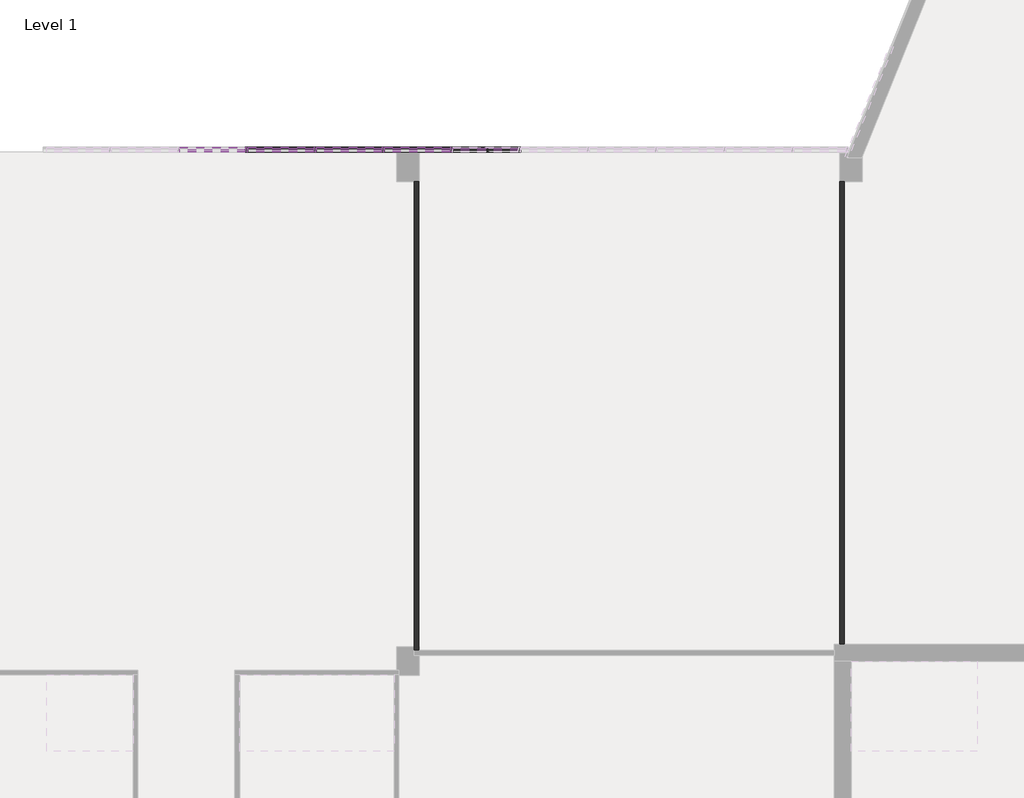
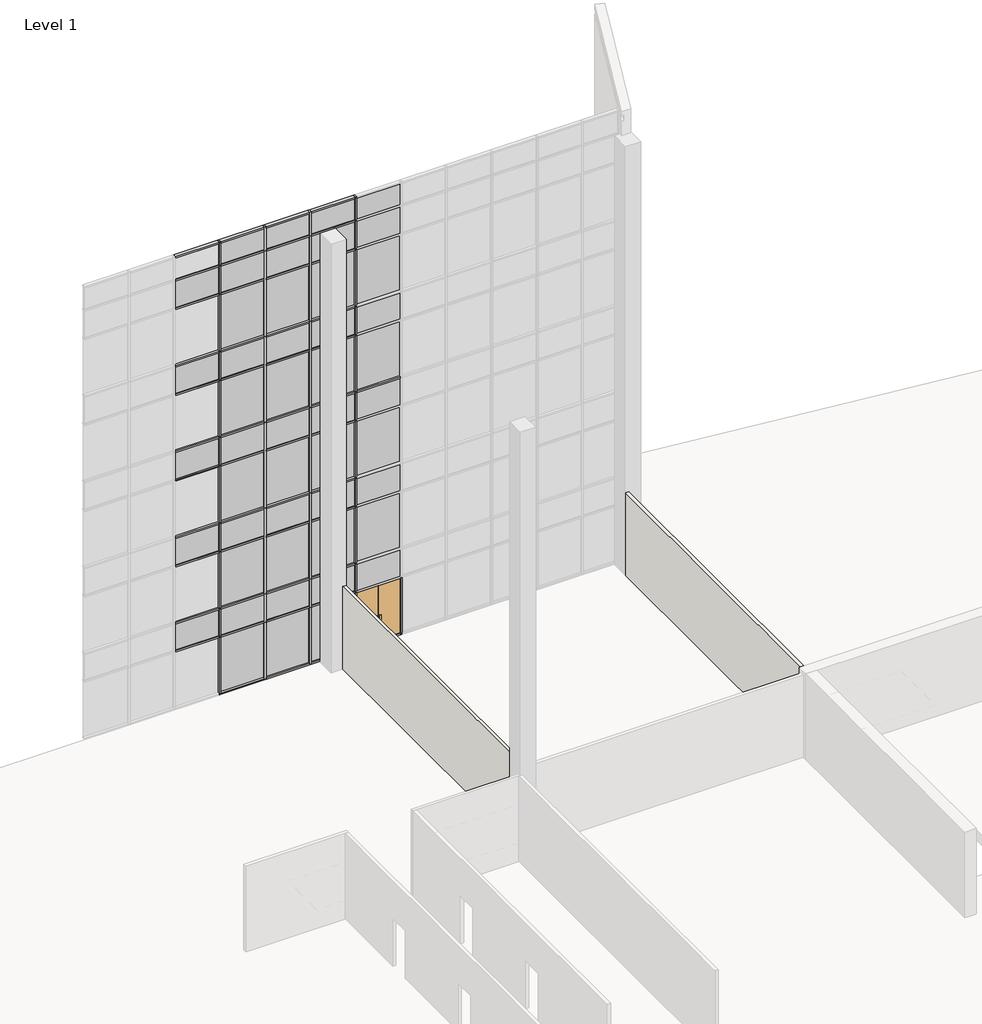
# One storey, part 13 of 23: 78 members, 48 plates, 2 walls, 1 door.
"""IFC4 building model written with IfcOpenShell, lengths in millimetres."""

from ifc_helpers import new_model, si_unit, origin, origin_with_axes, place, context, project, spatial, polyline, outline, extrude, transform, mapped, element, save
from components import curtain_wall_dbl_glass_curtain_wall_dbl_glass_821f5a63, member_2b49869a, member_f92b8aa2, member_810865a4, member_f0fea5a5, member_6d5c3e5e, member_9764dd38, system_panel_glazed_14c75400, system_panel_solid_5dfe6f83, system_panel_solid_e25e2004, system_panel_solid_b7551183

model = new_model("IFC4")

# Units and contexts
model_context = context("Model", 3, world=origin())
ifc_project = project(units=[si_unit("LENGTHUNIT", "METRE", prefix="MILLI")], contexts=[model_context])

# Site, building, storey
site = spatial("IfcSite", under=ifc_project)
building = spatial("IfcBuilding", under=site)
storey = spatial("IfcBuildingStorey", under=building, Name="Level 1", Elevation=0.0)

# Door
placement = place(None, origin())
curtain_wall_dbl_glass_curtain_wall_dbl_glass_shape = curtain_wall_dbl_glass_curtain_wall_dbl_glass_821f5a63(model_context)
element("IfcDoor", 1, ObjectType="Curtain Wall Dbl Glass : Curtain Wall Dbl Glass", at=placement, inside=storey, context=model_context, shape_type="MappedRepresentation", body=[
    mapped(curtain_wall_dbl_glass_curtain_wall_dbl_glass_shape, transform((-42545.8623649, 10017.7896508, 63.5), x_axis=(1.0, 0.0, 0.0), y_axis=(0.0, 1.0, 0.0), z_axis=(0.0, 0.0, 1.0))),
])

# Members
member_shape = member_2b49869a(model_context)
element("IfcMember", 2, ObjectType="Rectangular Mullion : 2.5\" x 5\" rectangular", at=placement, inside=storey, context=model_context, shape_type="MappedRepresentation", body=[
    mapped(member_shape, transform((-45289.0623649, 10017.7896508, 2438.4), x_axis=(1.0, 0.0, 0.0), y_axis=(0.0, -1.0, 0.0), z_axis=(0.0, 0.0, -1.0))),
])
element("IfcMember", 3, ObjectType="Rectangular Mullion : 2.5\" x 5\" rectangular", at=placement, inside=storey, context=model_context, shape_type="MappedRepresentation", body=[
    mapped(member_shape, transform((-47117.8623649, 10017.7896508, 2438.4), x_axis=(1.0, 0.0, 0.0), y_axis=(0.0, -1.0, 0.0), z_axis=(0.0, 0.0, -1.0))),
])
element("IfcMember", 4, ObjectType="Rectangular Mullion : 2.5\" x 5\" rectangular", at=placement, inside=storey, context=model_context, shape_type="MappedRepresentation", body=[
    mapped(member_shape, transform((-48946.6623649, 10017.7896508, 2438.4), x_axis=(1.0, 0.0, 0.0), y_axis=(0.0, -1.0, 0.0), z_axis=(0.0, 0.0, -1.0))),
])
member_2_shape = member_f92b8aa2(model_context)
element("IfcMember", 5, ObjectType="Rectangular Mullion : 2.5\" x 5\" rectangular", at=placement, inside=storey, context=model_context, shape_type="MappedRepresentation", body=[
    mapped(member_2_shape, transform((-45289.0623649, 10017.7896508, 18288.0), x_axis=(1.0, 0.0, 0.0), y_axis=(0.0, -1.0, 0.0), z_axis=(0.0, 0.0, -1.0))),
])
element("IfcMember", 6, ObjectType="Rectangular Mullion : 2.5\" x 5\" rectangular", at=placement, inside=storey, context=model_context, shape_type="MappedRepresentation", body=[
    mapped(member_2_shape, transform((-47117.8623649, 10017.7896508, 18288.0), x_axis=(1.0, 0.0, 0.0), y_axis=(0.0, -1.0, 0.0), z_axis=(0.0, 0.0, -1.0))),
])
element("IfcMember", 7, ObjectType="Rectangular Mullion : 2.5\" x 5\" rectangular", at=placement, inside=storey, context=model_context, shape_type="MappedRepresentation", body=[
    mapped(member_2_shape, transform((-48946.6623649, 10017.7896508, 18288.0), x_axis=(1.0, 0.0, 0.0), y_axis=(0.0, -1.0, 0.0), z_axis=(0.0, 0.0, -1.0))),
])
element("IfcMember", 8, ObjectType="Rectangular Mullion : 2.5\" x 5\" rectangular", at=placement, inside=storey, context=model_context, shape_type="MappedRepresentation", body=[
    mapped(member_2_shape, transform((-43460.2623649, 10017.7896508, 18288.0), x_axis=(1.0, 0.0, 0.0), y_axis=(0.0, -1.0, 0.0), z_axis=(0.0, 0.0, -1.0))),
])
member_3_shape = member_810865a4(model_context)
element("IfcMember", 9, ObjectType="Rectangular Mullion : 2.5\" x 5\" rectangular", at=placement, inside=storey, context=model_context, shape_type="MappedRepresentation", body=[
    mapped(member_3_shape, transform((-43460.2623649, 10017.7896508, 10972.8), x_axis=(1.0, 0.0, 0.0), y_axis=(0.0, -1.0, 0.0), z_axis=(0.0, 0.0, -1.0))),
])
element("IfcMember", 10, ObjectType="Rectangular Mullion : 2.5\" x 5\" rectangular", at=placement, inside=storey, context=model_context, shape_type="MappedRepresentation", body=[
    mapped(member_3_shape, transform((-43460.2623649, 10017.7896508, 7315.2), x_axis=(1.0, 0.0, 0.0), y_axis=(0.0, -1.0, 0.0), z_axis=(0.0, 0.0, -1.0))),
])
element("IfcMember", 11, ObjectType="Rectangular Mullion : 2.5\" x 5\" rectangular", at=placement, inside=storey, context=model_context, shape_type="MappedRepresentation", body=[
    mapped(member_3_shape, transform((-43460.2623649, 10017.7896508, 3657.6), x_axis=(1.0, 0.0, 0.0), y_axis=(0.0, -1.0, 0.0), z_axis=(0.0, 0.0, -1.0))),
])
element("IfcMember", 12, ObjectType="Rectangular Mullion : 2.5\" x 5\" rectangular", at=placement, inside=storey, context=model_context, shape_type="MappedRepresentation", body=[
    mapped(member_3_shape, transform((-45289.0623649, 10017.7896508, 14630.4), x_axis=(1.0, 0.0, 0.0), y_axis=(0.0, -1.0, 0.0), z_axis=(0.0, 0.0, -1.0))),
])
element("IfcMember", 13, ObjectType="Rectangular Mullion : 2.5\" x 5\" rectangular", at=placement, inside=storey, context=model_context, shape_type="MappedRepresentation", body=[
    mapped(member_3_shape, transform((-45289.0623649, 10017.7896508, 10972.8), x_axis=(1.0, 0.0, 0.0), y_axis=(0.0, -1.0, 0.0), z_axis=(0.0, 0.0, -1.0))),
])
element("IfcMember", 14, ObjectType="Rectangular Mullion : 2.5\" x 5\" rectangular", at=placement, inside=storey, context=model_context, shape_type="MappedRepresentation", body=[
    mapped(member_3_shape, transform((-45289.0623649, 10017.7896508, 7315.2), x_axis=(1.0, 0.0, 0.0), y_axis=(0.0, -1.0, 0.0), z_axis=(0.0, 0.0, -1.0))),
])
element("IfcMember", 15, ObjectType="Rectangular Mullion : 2.5\" x 5\" rectangular", at=placement, inside=storey, context=model_context, shape_type="MappedRepresentation", body=[
    mapped(member_3_shape, transform((-45289.0623649, 10017.7896508, 3657.6), x_axis=(1.0, 0.0, 0.0), y_axis=(0.0, -1.0, 0.0), z_axis=(0.0, 0.0, -1.0))),
])
element("IfcMember", 16, ObjectType="Rectangular Mullion : 2.5\" x 5\" rectangular", at=placement, inside=storey, context=model_context, shape_type="MappedRepresentation", body=[
    mapped(member_3_shape, transform((-47117.8623649, 10017.7896508, 14630.4), x_axis=(1.0, 0.0, 0.0), y_axis=(0.0, -1.0, 0.0), z_axis=(0.0, 0.0, -1.0))),
])
element("IfcMember", 17, ObjectType="Rectangular Mullion : 2.5\" x 5\" rectangular", at=placement, inside=storey, context=model_context, shape_type="MappedRepresentation", body=[
    mapped(member_3_shape, transform((-47117.8623649, 10017.7896508, 10972.8), x_axis=(1.0, 0.0, 0.0), y_axis=(0.0, -1.0, 0.0), z_axis=(0.0, 0.0, -1.0))),
])
element("IfcMember", 18, ObjectType="Rectangular Mullion : 2.5\" x 5\" rectangular", at=placement, inside=storey, context=model_context, shape_type="MappedRepresentation", body=[
    mapped(member_3_shape, transform((-47117.8623649, 10017.7896508, 7315.2), x_axis=(1.0, 0.0, 0.0), y_axis=(0.0, -1.0, 0.0), z_axis=(0.0, 0.0, -1.0))),
])
element("IfcMember", 19, ObjectType="Rectangular Mullion : 2.5\" x 5\" rectangular", at=placement, inside=storey, context=model_context, shape_type="MappedRepresentation", body=[
    mapped(member_3_shape, transform((-47117.8623649, 10017.7896508, 3657.6), x_axis=(1.0, 0.0, 0.0), y_axis=(0.0, -1.0, 0.0), z_axis=(0.0, 0.0, -1.0))),
])
element("IfcMember", 20, ObjectType="Rectangular Mullion : 2.5\" x 5\" rectangular", at=placement, inside=storey, context=model_context, shape_type="MappedRepresentation", body=[
    mapped(member_3_shape, transform((-48946.6623649, 10017.7896508, 14630.4), x_axis=(1.0, 0.0, 0.0), y_axis=(0.0, -1.0, 0.0), z_axis=(0.0, 0.0, -1.0))),
])
element("IfcMember", 21, ObjectType="Rectangular Mullion : 2.5\" x 5\" rectangular", at=placement, inside=storey, context=model_context, shape_type="MappedRepresentation", body=[
    mapped(member_3_shape, transform((-48946.6623649, 10017.7896508, 10972.8), x_axis=(1.0, 0.0, 0.0), y_axis=(0.0, -1.0, 0.0), z_axis=(0.0, 0.0, -1.0))),
])
element("IfcMember", 22, ObjectType="Rectangular Mullion : 2.5\" x 5\" rectangular", at=placement, inside=storey, context=model_context, shape_type="MappedRepresentation", body=[
    mapped(member_3_shape, transform((-48946.6623649, 10017.7896508, 7315.2), x_axis=(1.0, 0.0, 0.0), y_axis=(0.0, -1.0, 0.0), z_axis=(0.0, 0.0, -1.0))),
])
element("IfcMember", 23, ObjectType="Rectangular Mullion : 2.5\" x 5\" rectangular", at=placement, inside=storey, context=model_context, shape_type="MappedRepresentation", body=[
    mapped(member_3_shape, transform((-48946.6623649, 10017.7896508, 3657.6), x_axis=(1.0, 0.0, 0.0), y_axis=(0.0, -1.0, 0.0), z_axis=(0.0, 0.0, -1.0))),
])
element("IfcMember", 24, ObjectType="Rectangular Mullion : 2.5\" x 5\" rectangular", at=placement, inside=storey, context=model_context, shape_type="MappedRepresentation", body=[
    mapped(member_3_shape, transform((-43460.2623649, 10017.7896508, 14630.4), x_axis=(1.0, 0.0, 0.0), y_axis=(0.0, -1.0, 0.0), z_axis=(0.0, 0.0, -1.0))),
])
member_4_shape = member_f0fea5a5(model_context)
element("IfcMember", 25, ObjectType="Rectangular Mullion : 2.5\" x 5\" rectangular", at=placement, inside=storey, context=model_context, shape_type="MappedRepresentation", body=[
    mapped(member_4_shape, transform((-45289.0623649, 10017.7896508, 0.0), x_axis=(1.0, 0.0, 0.0), y_axis=(0.0, -1.0, 0.0), z_axis=(0.0, 0.0, -1.0))),
])
element("IfcMember", 26, ObjectType="Rectangular Mullion : 2.5\" x 5\" rectangular", at=placement, inside=storey, context=model_context, shape_type="MappedRepresentation", body=[
    mapped(member_4_shape, transform((-47117.8623649, 10017.7896508, 0.0), x_axis=(1.0, 0.0, 0.0), y_axis=(0.0, -1.0, 0.0), z_axis=(0.0, 0.0, -1.0))),
])
element("IfcMember", 27, ObjectType="Rectangular Mullion : 2.5\" x 5\" rectangular", at=placement, inside=storey, context=model_context, shape_type="MappedRepresentation", body=[
    mapped(member_4_shape, transform((-48946.6623649, 10017.7896508, 0.0), x_axis=(1.0, 0.0, 0.0), y_axis=(0.0, -1.0, 0.0), z_axis=(0.0, 0.0, -1.0))),
])
element("IfcMember", 28, ObjectType="Rectangular Mullion : 2.5\" x 5\" rectangular", at=placement, inside=storey, context=model_context, shape_type="MappedRepresentation", body=[
    mapped(member_4_shape, transform((-41631.4623649, 10017.7896508, 0.0), x_axis=(1.0, 0.0, 0.0), y_axis=(0.0, -1.0, 0.0), z_axis=(0.0, 0.0, -1.0))),
])
element("IfcMember", 29, ObjectType="Rectangular Mullion : 2.5\" x 5\" rectangular", at=placement, inside=storey, context=model_context, shape_type="MappedRepresentation", body=[
    mapped(member_4_shape, transform((-43460.2623649, 10017.7896508, 0.0), x_axis=(1.0, 0.0, 0.0), y_axis=(0.0, -1.0, 0.0), z_axis=(0.0, 0.0, -1.0))),
])
element("IfcMember", 30, ObjectType="Rectangular Mullion : 2.5\" x 5\" rectangular", at=placement, inside=storey, context=model_context, shape_type="MappedRepresentation", body=[
    mapped(member_shape, transform((-43460.2623649, 10017.7896508, 2438.4), x_axis=(1.0, 0.0, 0.0), y_axis=(0.0, -1.0, 0.0), z_axis=(0.0, 0.0, -1.0))),
])
member_5_shape = member_6d5c3e5e(model_context)
element("IfcMember", 31, ObjectType="Rectangular Mullion : 2.5\" x 5\" rectangular", at=placement, inside=storey, context=model_context, shape_type="MappedRepresentation", body=[
    mapped(member_5_shape, transform((-43492.0123649, 10017.7896508, 19304.0), x_axis=(0.0, 0.0, 1.0), y_axis=(0.0, -1.0, 0.0), z_axis=(1.0, 0.0, 0.0))),
])
element("IfcMember", 32, ObjectType="Rectangular Mullion : 2.5\" x 5\" rectangular", at=placement, inside=storey, context=model_context, shape_type="MappedRepresentation", body=[
    mapped(member_5_shape, transform((-45320.8123649, 10017.7896508, 19304.0), x_axis=(0.0, 0.0, 1.0), y_axis=(0.0, -1.0, 0.0), z_axis=(1.0, 0.0, 0.0))),
])
element("IfcMember", 33, ObjectType="Rectangular Mullion : 2.5\" x 5\" rectangular", at=placement, inside=storey, context=model_context, shape_type="MappedRepresentation", body=[
    mapped(member_5_shape, transform((-47149.6123649, 10017.7896508, 19304.0), x_axis=(0.0, 0.0, 1.0), y_axis=(0.0, -1.0, 0.0), z_axis=(1.0, 0.0, 0.0))),
])
element("IfcMember", 34, ObjectType="Rectangular Mullion : 2.5\" x 5\" rectangular", at=placement, inside=storey, context=model_context, shape_type="MappedRepresentation", body=[
    mapped(member_5_shape, transform((-48978.4123649, 10017.7896508, 19304.0), x_axis=(0.0, 0.0, 1.0), y_axis=(0.0, -1.0, 0.0), z_axis=(1.0, 0.0, 0.0))),
])
member_6_shape = member_9764dd38(model_context)
element("IfcMember", 35, ObjectType="Rectangular Mullion : 2.5\" x 5\" rectangular", at=placement, inside=storey, context=model_context, shape_type="MappedRepresentation", body=[
    mapped(member_6_shape, transform((-43492.0123649, 10017.7896508, 17068.8), x_axis=(0.0, 0.0, 1.0), y_axis=(0.0, -1.0, 0.0), z_axis=(1.0, 0.0, 0.0))),
])
element("IfcMember", 36, ObjectType="Rectangular Mullion : 2.5\" x 5\" rectangular", at=placement, inside=storey, context=model_context, shape_type="MappedRepresentation", body=[
    mapped(member_6_shape, transform((-45320.8123649, 10017.7896508, 17068.8), x_axis=(0.0, 0.0, 1.0), y_axis=(0.0, -1.0, 0.0), z_axis=(1.0, 0.0, 0.0))),
])
element("IfcMember", 37, ObjectType="Rectangular Mullion : 2.5\" x 5\" rectangular", at=placement, inside=storey, context=model_context, shape_type="MappedRepresentation", body=[
    mapped(member_6_shape, transform((-47149.6123649, 10017.7896508, 17068.8), x_axis=(0.0, 0.0, 1.0), y_axis=(0.0, -1.0, 0.0), z_axis=(1.0, 0.0, 0.0))),
])
element("IfcMember", 38, ObjectType="Rectangular Mullion : 2.5\" x 5\" rectangular", at=placement, inside=storey, context=model_context, shape_type="MappedRepresentation", body=[
    mapped(member_6_shape, transform((-48978.4123649, 10017.7896508, 17068.8), x_axis=(0.0, 0.0, 1.0), y_axis=(0.0, -1.0, 0.0), z_axis=(1.0, 0.0, 0.0))),
])
element("IfcMember", 39, ObjectType="Rectangular Mullion : 2.5\" x 5\" rectangular", at=placement, inside=storey, context=model_context, shape_type="MappedRepresentation", body=[
    mapped(member_6_shape, transform((-43492.0123649, 10017.7896508, 13411.2), x_axis=(0.0, 0.0, 1.0), y_axis=(0.0, -1.0, 0.0), z_axis=(1.0, 0.0, 0.0))),
])
element("IfcMember", 40, ObjectType="Rectangular Mullion : 2.5\" x 5\" rectangular", at=placement, inside=storey, context=model_context, shape_type="MappedRepresentation", body=[
    mapped(member_6_shape, transform((-45320.8123649, 10017.7896508, 13411.2), x_axis=(0.0, 0.0, 1.0), y_axis=(0.0, -1.0, 0.0), z_axis=(1.0, 0.0, 0.0))),
])
element("IfcMember", 41, ObjectType="Rectangular Mullion : 2.5\" x 5\" rectangular", at=placement, inside=storey, context=model_context, shape_type="MappedRepresentation", body=[
    mapped(member_6_shape, transform((-47149.6123649, 10017.7896508, 13411.2), x_axis=(0.0, 0.0, 1.0), y_axis=(0.0, -1.0, 0.0), z_axis=(1.0, 0.0, 0.0))),
])
element("IfcMember", 42, ObjectType="Rectangular Mullion : 2.5\" x 5\" rectangular", at=placement, inside=storey, context=model_context, shape_type="MappedRepresentation", body=[
    mapped(member_6_shape, transform((-48978.4123649, 10017.7896508, 13411.2), x_axis=(0.0, 0.0, 1.0), y_axis=(0.0, -1.0, 0.0), z_axis=(1.0, 0.0, 0.0))),
])
element("IfcMember", 43, ObjectType="Rectangular Mullion : 2.5\" x 5\" rectangular", at=placement, inside=storey, context=model_context, shape_type="MappedRepresentation", body=[
    mapped(member_6_shape, transform((-43492.0123649, 10017.7896508, 9753.6), x_axis=(0.0, 0.0, 1.0), y_axis=(0.0, -1.0, 0.0), z_axis=(1.0, 0.0, 0.0))),
])
element("IfcMember", 44, ObjectType="Rectangular Mullion : 2.5\" x 5\" rectangular", at=placement, inside=storey, context=model_context, shape_type="MappedRepresentation", body=[
    mapped(member_6_shape, transform((-45320.8123649, 10017.7896508, 9753.6), x_axis=(0.0, 0.0, 1.0), y_axis=(0.0, -1.0, 0.0), z_axis=(1.0, 0.0, 0.0))),
])
element("IfcMember", 45, ObjectType="Rectangular Mullion : 2.5\" x 5\" rectangular", at=placement, inside=storey, context=model_context, shape_type="MappedRepresentation", body=[
    mapped(member_6_shape, transform((-47149.6123649, 10017.7896508, 9753.6), x_axis=(0.0, 0.0, 1.0), y_axis=(0.0, -1.0, 0.0), z_axis=(1.0, 0.0, 0.0))),
])
element("IfcMember", 46, ObjectType="Rectangular Mullion : 2.5\" x 5\" rectangular", at=placement, inside=storey, context=model_context, shape_type="MappedRepresentation", body=[
    mapped(member_6_shape, transform((-48978.4123649, 10017.7896508, 9753.6), x_axis=(0.0, 0.0, 1.0), y_axis=(0.0, -1.0, 0.0), z_axis=(1.0, 0.0, 0.0))),
])
element("IfcMember", 47, ObjectType="Rectangular Mullion : 2.5\" x 5\" rectangular", at=placement, inside=storey, context=model_context, shape_type="MappedRepresentation", body=[
    mapped(member_6_shape, transform((-43492.0123649, 10017.7896508, 6096.0), x_axis=(0.0, 0.0, 1.0), y_axis=(0.0, -1.0, 0.0), z_axis=(1.0, 0.0, 0.0))),
])
element("IfcMember", 48, ObjectType="Rectangular Mullion : 2.5\" x 5\" rectangular", at=placement, inside=storey, context=model_context, shape_type="MappedRepresentation", body=[
    mapped(member_6_shape, transform((-45320.8123649, 10017.7896508, 6096.0), x_axis=(0.0, 0.0, 1.0), y_axis=(0.0, -1.0, 0.0), z_axis=(1.0, 0.0, 0.0))),
])
element("IfcMember", 49, ObjectType="Rectangular Mullion : 2.5\" x 5\" rectangular", at=placement, inside=storey, context=model_context, shape_type="MappedRepresentation", body=[
    mapped(member_6_shape, transform((-47149.6123649, 10017.7896508, 6096.0), x_axis=(0.0, 0.0, 1.0), y_axis=(0.0, -1.0, 0.0), z_axis=(1.0, 0.0, 0.0))),
])
element("IfcMember", 50, ObjectType="Rectangular Mullion : 2.5\" x 5\" rectangular", at=placement, inside=storey, context=model_context, shape_type="MappedRepresentation", body=[
    mapped(member_6_shape, transform((-48978.4123649, 10017.7896508, 6096.0), x_axis=(0.0, 0.0, 1.0), y_axis=(0.0, -1.0, 0.0), z_axis=(1.0, 0.0, 0.0))),
])
element("IfcMember", 51, ObjectType="Rectangular Mullion : 2.5\" x 5\" rectangular", at=placement, inside=storey, context=model_context, shape_type="MappedRepresentation", body=[
    mapped(member_6_shape, transform((-43492.0123649, 10017.7896508, 2470.15), x_axis=(0.0, 0.0, 1.0), y_axis=(0.0, -1.0, 0.0), z_axis=(1.0, 0.0, 0.0))),
])
element("IfcMember", 52, ObjectType="Rectangular Mullion : 2.5\" x 5\" rectangular", at=placement, inside=storey, context=model_context, shape_type="MappedRepresentation", body=[
    mapped(member_6_shape, transform((-45320.8123649, 10017.7896508, 2470.15), x_axis=(0.0, 0.0, 1.0), y_axis=(0.0, -1.0, 0.0), z_axis=(1.0, 0.0, 0.0))),
])
element("IfcMember", 53, ObjectType="Rectangular Mullion : 2.5\" x 5\" rectangular", at=placement, inside=storey, context=model_context, shape_type="MappedRepresentation", body=[
    mapped(member_6_shape, transform((-47149.6123649, 10017.7896508, 2470.15), x_axis=(0.0, 0.0, 1.0), y_axis=(0.0, -1.0, 0.0), z_axis=(1.0, 0.0, 0.0))),
])
element("IfcMember", 54, ObjectType="Rectangular Mullion : 2.5\" x 5\" rectangular", at=placement, inside=storey, context=model_context, shape_type="MappedRepresentation", body=[
    mapped(member_6_shape, transform((-48978.4123649, 10017.7896508, 2470.15), x_axis=(0.0, 0.0, 1.0), y_axis=(0.0, -1.0, 0.0), z_axis=(1.0, 0.0, 0.0))),
])
element("IfcMember", 55, ObjectType="Rectangular Mullion : 2.5\" x 5\" rectangular", at=placement, inside=storey, context=model_context, shape_type="MappedRepresentation", body=[
    mapped(member_5_shape, transform((-45257.3123649, 10017.7896508, 0.0), x_axis=(0.0, 0.0, -1.0), y_axis=(0.0, -1.0, 0.0), z_axis=(-1.0, 0.0, 0.0))),
])
element("IfcMember", 56, ObjectType="Rectangular Mullion : 2.5\" x 5\" rectangular", at=placement, inside=storey, context=model_context, shape_type="MappedRepresentation", body=[
    mapped(member_5_shape, transform((-47086.1123649, 10017.7896508, 0.0), x_axis=(0.0, 0.0, -1.0), y_axis=(0.0, -1.0, 0.0), z_axis=(-1.0, 0.0, 0.0))),
])
element("IfcMember", 57, ObjectType="Rectangular Mullion : 2.5\" x 5\" rectangular", at=placement, inside=storey, context=model_context, shape_type="MappedRepresentation", body=[
    mapped(member_5_shape, transform((-48914.9123649, 10017.7896508, 0.0), x_axis=(0.0, 0.0, -1.0), y_axis=(0.0, -1.0, 0.0), z_axis=(-1.0, 0.0, 0.0))),
])
element("IfcMember", 58, ObjectType="Rectangular Mullion : 2.5\" x 5\" rectangular", at=placement, inside=storey, context=model_context, shape_type="MappedRepresentation", body=[
    mapped(member_5_shape, transform((-43428.5123649, 10017.7896508, 0.0), x_axis=(0.0, 0.0, -1.0), y_axis=(0.0, -1.0, 0.0), z_axis=(-1.0, 0.0, 0.0))),
])
element("IfcMember", 59, ObjectType="Rectangular Mullion : 2.5\" x 5\" rectangular", at=placement, inside=storey, context=model_context, shape_type="MappedRepresentation", body=[
    mapped(member_6_shape, transform((-41663.2123649, 10017.7896508, 10972.8), x_axis=(0.0, 0.0, 1.0), y_axis=(0.0, -1.0, 0.0), z_axis=(1.0, 0.0, 0.0))),
])
element("IfcMember", 60, ObjectType="Rectangular Mullion : 2.5\" x 5\" rectangular", at=placement, inside=storey, context=model_context, shape_type="MappedRepresentation", body=[
    mapped(member_6_shape, transform((-43492.0123649, 10017.7896508, 10972.8), x_axis=(0.0, 0.0, 1.0), y_axis=(0.0, -1.0, 0.0), z_axis=(1.0, 0.0, 0.0))),
])
element("IfcMember", 61, ObjectType="Rectangular Mullion : 2.5\" x 5\" rectangular", at=placement, inside=storey, context=model_context, shape_type="MappedRepresentation", body=[
    mapped(member_6_shape, transform((-45320.8123649, 10017.7896508, 10972.8), x_axis=(0.0, 0.0, 1.0), y_axis=(0.0, -1.0, 0.0), z_axis=(1.0, 0.0, 0.0))),
])
element("IfcMember", 62, ObjectType="Rectangular Mullion : 2.5\" x 5\" rectangular", at=placement, inside=storey, context=model_context, shape_type="MappedRepresentation", body=[
    mapped(member_6_shape, transform((-47149.6123649, 10017.7896508, 10972.8), x_axis=(0.0, 0.0, 1.0), y_axis=(0.0, -1.0, 0.0), z_axis=(1.0, 0.0, 0.0))),
])
element("IfcMember", 63, ObjectType="Rectangular Mullion : 2.5\" x 5\" rectangular", at=placement, inside=storey, context=model_context, shape_type="MappedRepresentation", body=[
    mapped(member_6_shape, transform((-48978.4123649, 10017.7896508, 10972.8), x_axis=(0.0, 0.0, 1.0), y_axis=(0.0, -1.0, 0.0), z_axis=(1.0, 0.0, 0.0))),
])
element("IfcMember", 64, ObjectType="Rectangular Mullion : 2.5\" x 5\" rectangular", at=placement, inside=storey, context=model_context, shape_type="MappedRepresentation", body=[
    mapped(member_6_shape, transform((-43492.0123649, 10017.7896508, 7315.2), x_axis=(0.0, 0.0, 1.0), y_axis=(0.0, -1.0, 0.0), z_axis=(1.0, 0.0, 0.0))),
])
element("IfcMember", 65, ObjectType="Rectangular Mullion : 2.5\" x 5\" rectangular", at=placement, inside=storey, context=model_context, shape_type="MappedRepresentation", body=[
    mapped(member_6_shape, transform((-45320.8123649, 10017.7896508, 7315.2), x_axis=(0.0, 0.0, 1.0), y_axis=(0.0, -1.0, 0.0), z_axis=(1.0, 0.0, 0.0))),
])
element("IfcMember", 66, ObjectType="Rectangular Mullion : 2.5\" x 5\" rectangular", at=placement, inside=storey, context=model_context, shape_type="MappedRepresentation", body=[
    mapped(member_6_shape, transform((-47149.6123649, 10017.7896508, 7315.2), x_axis=(0.0, 0.0, 1.0), y_axis=(0.0, -1.0, 0.0), z_axis=(1.0, 0.0, 0.0))),
])
element("IfcMember", 67, ObjectType="Rectangular Mullion : 2.5\" x 5\" rectangular", at=placement, inside=storey, context=model_context, shape_type="MappedRepresentation", body=[
    mapped(member_6_shape, transform((-48978.4123649, 10017.7896508, 7315.2), x_axis=(0.0, 0.0, 1.0), y_axis=(0.0, -1.0, 0.0), z_axis=(1.0, 0.0, 0.0))),
])
element("IfcMember", 68, ObjectType="Rectangular Mullion : 2.5\" x 5\" rectangular", at=placement, inside=storey, context=model_context, shape_type="MappedRepresentation", body=[
    mapped(member_6_shape, transform((-43492.0123649, 10017.7896508, 18288.0), x_axis=(0.0, 0.0, 1.0), y_axis=(0.0, -1.0, 0.0), z_axis=(1.0, 0.0, 0.0))),
])
element("IfcMember", 69, ObjectType="Rectangular Mullion : 2.5\" x 5\" rectangular", at=placement, inside=storey, context=model_context, shape_type="MappedRepresentation", body=[
    mapped(member_6_shape, transform((-45320.8123649, 10017.7896508, 18288.0), x_axis=(0.0, 0.0, 1.0), y_axis=(0.0, -1.0, 0.0), z_axis=(1.0, 0.0, 0.0))),
])
element("IfcMember", 70, ObjectType="Rectangular Mullion : 2.5\" x 5\" rectangular", at=placement, inside=storey, context=model_context, shape_type="MappedRepresentation", body=[
    mapped(member_6_shape, transform((-47149.6123649, 10017.7896508, 18288.0), x_axis=(0.0, 0.0, 1.0), y_axis=(0.0, -1.0, 0.0), z_axis=(1.0, 0.0, 0.0))),
])
element("IfcMember", 71, ObjectType="Rectangular Mullion : 2.5\" x 5\" rectangular", at=placement, inside=storey, context=model_context, shape_type="MappedRepresentation", body=[
    mapped(member_6_shape, transform((-48978.4123649, 10017.7896508, 18288.0), x_axis=(0.0, 0.0, 1.0), y_axis=(0.0, -1.0, 0.0), z_axis=(1.0, 0.0, 0.0))),
])
element("IfcMember", 72, ObjectType="Rectangular Mullion : 2.5\" x 5\" rectangular", at=placement, inside=storey, context=model_context, shape_type="MappedRepresentation", body=[
    mapped(member_6_shape, transform((-43492.0123649, 10017.7896508, 14630.4), x_axis=(0.0, 0.0, 1.0), y_axis=(0.0, -1.0, 0.0), z_axis=(1.0, 0.0, 0.0))),
])
element("IfcMember", 73, ObjectType="Rectangular Mullion : 2.5\" x 5\" rectangular", at=placement, inside=storey, context=model_context, shape_type="MappedRepresentation", body=[
    mapped(member_6_shape, transform((-45320.8123649, 10017.7896508, 14630.4), x_axis=(0.0, 0.0, 1.0), y_axis=(0.0, -1.0, 0.0), z_axis=(1.0, 0.0, 0.0))),
])
element("IfcMember", 74, ObjectType="Rectangular Mullion : 2.5\" x 5\" rectangular", at=placement, inside=storey, context=model_context, shape_type="MappedRepresentation", body=[
    mapped(member_6_shape, transform((-47149.6123649, 10017.7896508, 14630.4), x_axis=(0.0, 0.0, 1.0), y_axis=(0.0, -1.0, 0.0), z_axis=(1.0, 0.0, 0.0))),
])
element("IfcMember", 75, ObjectType="Rectangular Mullion : 2.5\" x 5\" rectangular", at=placement, inside=storey, context=model_context, shape_type="MappedRepresentation", body=[
    mapped(member_6_shape, transform((-48978.4123649, 10017.7896508, 14630.4), x_axis=(0.0, 0.0, 1.0), y_axis=(0.0, -1.0, 0.0), z_axis=(1.0, 0.0, 0.0))),
])
element("IfcMember", 76, ObjectType="Rectangular Mullion : 2.5\" x 5\" rectangular", at=placement, inside=storey, context=model_context, shape_type="MappedRepresentation", body=[
    mapped(member_6_shape, transform((-43492.0123649, 10017.7896508, 3657.6), x_axis=(0.0, 0.0, 1.0), y_axis=(0.0, -1.0, 0.0), z_axis=(1.0, 0.0, 0.0))),
])
element("IfcMember", 77, ObjectType="Rectangular Mullion : 2.5\" x 5\" rectangular", at=placement, inside=storey, context=model_context, shape_type="MappedRepresentation", body=[
    mapped(member_6_shape, transform((-48978.4123649, 10017.7896508, 3657.6), x_axis=(0.0, 0.0, 1.0), y_axis=(0.0, -1.0, 0.0), z_axis=(1.0, 0.0, 0.0))),
])
element("IfcMember", 78, ObjectType="Rectangular Mullion : 2.5\" x 5\" rectangular", at=placement, inside=storey, context=model_context, shape_type="MappedRepresentation", body=[
    mapped(member_6_shape, transform((-47149.6123649, 10017.7896508, 3657.6), x_axis=(0.0, 0.0, 1.0), y_axis=(0.0, -1.0, 0.0), z_axis=(1.0, 0.0, 0.0))),
])
element("IfcMember", 79, ObjectType="Rectangular Mullion : 2.5\" x 5\" rectangular", at=placement, inside=storey, context=model_context, shape_type="MappedRepresentation", body=[
    mapped(member_6_shape, transform((-45320.8123649, 10017.7896508, 3657.6), x_axis=(0.0, 0.0, 1.0), y_axis=(0.0, -1.0, 0.0), z_axis=(1.0, 0.0, 0.0))),
])

# Plates
system_panel_glazed_shape = system_panel_glazed_14c75400(model_context)
element("IfcPlate", 80, ObjectType="System Panel : Glazed", at=placement, inside=storey, context=model_context, shape_type="MappedRepresentation", body=[
    mapped(system_panel_glazed_shape, transform((-42545.8623649, 10017.7896508, 14662.15), x_axis=(1.0, 0.0, 0.0), y_axis=(0.0, 1.0, 0.0), z_axis=(0.0, 0.0, 1.0))),
])
element("IfcPlate", 81, ObjectType="System Panel : Glazed", at=placement, inside=storey, context=model_context, shape_type="MappedRepresentation", body=[
    mapped(system_panel_glazed_shape, transform((-44374.6623649, 10017.7896508, 14662.15), x_axis=(1.0, 0.0, 0.0), y_axis=(0.0, 1.0, 0.0), z_axis=(0.0, 0.0, 1.0))),
])
element("IfcPlate", 82, ObjectType="System Panel : Glazed", at=placement, inside=storey, context=model_context, shape_type="MappedRepresentation", body=[
    mapped(system_panel_glazed_shape, transform((-46203.4623649, 10017.7896508, 14662.15), x_axis=(1.0, 0.0, 0.0), y_axis=(0.0, 1.0, 0.0), z_axis=(0.0, 0.0, 1.0))),
])
element("IfcPlate", 83, ObjectType="System Panel : Glazed", at=placement, inside=storey, context=model_context, shape_type="MappedRepresentation", body=[
    mapped(system_panel_glazed_shape, transform((-48032.2623649, 10017.7896508, 14662.15), x_axis=(1.0, 0.0, 0.0), y_axis=(0.0, 1.0, 0.0), z_axis=(0.0, 0.0, 1.0))),
])
element("IfcPlate", 84, ObjectType="System Panel : Glazed", at=placement, inside=storey, context=model_context, shape_type="MappedRepresentation", body=[
    mapped(system_panel_glazed_shape, transform((-42545.8623649, 10017.7896508, 11004.55), x_axis=(1.0, 0.0, 0.0), y_axis=(0.0, 1.0, 0.0), z_axis=(0.0, 0.0, 1.0))),
])
element("IfcPlate", 85, ObjectType="System Panel : Glazed", at=placement, inside=storey, context=model_context, shape_type="MappedRepresentation", body=[
    mapped(system_panel_glazed_shape, transform((-44374.6623649, 10017.7896508, 11004.55), x_axis=(1.0, 0.0, 0.0), y_axis=(0.0, 1.0, 0.0), z_axis=(0.0, 0.0, 1.0))),
])
element("IfcPlate", 86, ObjectType="System Panel : Glazed", at=placement, inside=storey, context=model_context, shape_type="MappedRepresentation", body=[
    mapped(system_panel_glazed_shape, transform((-46203.4623649, 10017.7896508, 11004.55), x_axis=(1.0, 0.0, 0.0), y_axis=(0.0, 1.0, 0.0), z_axis=(0.0, 0.0, 1.0))),
])
element("IfcPlate", 87, ObjectType="System Panel : Glazed", at=placement, inside=storey, context=model_context, shape_type="MappedRepresentation", body=[
    mapped(system_panel_glazed_shape, transform((-48032.2623649, 10017.7896508, 11004.55), x_axis=(1.0, 0.0, 0.0), y_axis=(0.0, 1.0, 0.0), z_axis=(0.0, 0.0, 1.0))),
])
element("IfcPlate", 88, ObjectType="System Panel : Glazed", at=placement, inside=storey, context=model_context, shape_type="MappedRepresentation", body=[
    mapped(system_panel_glazed_shape, transform((-42545.8623649, 10017.7896508, 7346.95), x_axis=(1.0, 0.0, 0.0), y_axis=(0.0, 1.0, 0.0), z_axis=(0.0, 0.0, 1.0))),
])
element("IfcPlate", 89, ObjectType="System Panel : Glazed", at=placement, inside=storey, context=model_context, shape_type="MappedRepresentation", body=[
    mapped(system_panel_glazed_shape, transform((-44374.6623649, 10017.7896508, 7346.95), x_axis=(1.0, 0.0, 0.0), y_axis=(0.0, 1.0, 0.0), z_axis=(0.0, 0.0, 1.0))),
])
element("IfcPlate", 90, ObjectType="System Panel : Glazed", at=placement, inside=storey, context=model_context, shape_type="MappedRepresentation", body=[
    mapped(system_panel_glazed_shape, transform((-46203.4623649, 10017.7896508, 7346.95), x_axis=(1.0, 0.0, 0.0), y_axis=(0.0, 1.0, 0.0), z_axis=(0.0, 0.0, 1.0))),
])
element("IfcPlate", 91, ObjectType="System Panel : Glazed", at=placement, inside=storey, context=model_context, shape_type="MappedRepresentation", body=[
    mapped(system_panel_glazed_shape, transform((-48032.2623649, 10017.7896508, 7346.95), x_axis=(1.0, 0.0, 0.0), y_axis=(0.0, 1.0, 0.0), z_axis=(0.0, 0.0, 1.0))),
])
element("IfcPlate", 92, ObjectType="System Panel : Glazed", at=placement, inside=storey, context=model_context, shape_type="MappedRepresentation", body=[
    mapped(system_panel_glazed_shape, transform((-42545.8623649, 10017.7896508, 3689.35), x_axis=(1.0, 0.0, 0.0), y_axis=(0.0, 1.0, 0.0), z_axis=(0.0, 0.0, 1.0))),
])
element("IfcPlate", 93, ObjectType="System Panel : Glazed", at=placement, inside=storey, context=model_context, shape_type="MappedRepresentation", body=[
    mapped(system_panel_glazed_shape, transform((-44374.6623649, 10017.7896508, 3689.35), x_axis=(1.0, 0.0, 0.0), y_axis=(0.0, 1.0, 0.0), z_axis=(0.0, 0.0, 1.0))),
])
element("IfcPlate", 94, ObjectType="System Panel : Glazed", at=placement, inside=storey, context=model_context, shape_type="MappedRepresentation", body=[
    mapped(system_panel_glazed_shape, transform((-46203.4623649, 10017.7896508, 3689.35), x_axis=(1.0, 0.0, 0.0), y_axis=(0.0, 1.0, 0.0), z_axis=(0.0, 0.0, 1.0))),
])
element("IfcPlate", 95, ObjectType="System Panel : Glazed", at=placement, inside=storey, context=model_context, shape_type="MappedRepresentation", body=[
    mapped(system_panel_glazed_shape, transform((-48032.2623649, 10017.7896508, 3689.35), x_axis=(1.0, 0.0, 0.0), y_axis=(0.0, 1.0, 0.0), z_axis=(0.0, 0.0, 1.0))),
])
element("IfcPlate", 96, ObjectType="System Panel : Glazed", at=placement, inside=storey, context=model_context, shape_type="MappedRepresentation", body=[
    mapped(system_panel_glazed_shape, transform((-44374.6623649, 10017.7896508, 63.5), x_axis=(1.0, 0.0, 0.0), y_axis=(0.0, 1.0, 0.0), z_axis=(0.0, 0.0, 1.0))),
])
element("IfcPlate", 97, ObjectType="System Panel : Glazed", at=placement, inside=storey, context=model_context, shape_type="MappedRepresentation", body=[
    mapped(system_panel_glazed_shape, transform((-46203.4623649, 10017.7896508, 63.5), x_axis=(1.0, 0.0, 0.0), y_axis=(0.0, 1.0, 0.0), z_axis=(0.0, 0.0, 1.0))),
])
element("IfcPlate", 98, ObjectType="System Panel : Glazed", at=placement, inside=storey, context=model_context, shape_type="MappedRepresentation", body=[
    mapped(system_panel_glazed_shape, transform((-48032.2623649, 10017.7896508, 63.5), x_axis=(1.0, 0.0, 0.0), y_axis=(0.0, 1.0, 0.0), z_axis=(0.0, 0.0, 1.0))),
])
system_panel_solid_shape = system_panel_solid_5dfe6f83(model_context)
element("IfcPlate", 99, ObjectType="System Panel : Solid", at=placement, inside=storey, context=model_context, shape_type="MappedRepresentation", body=[
    mapped(system_panel_solid_shape, transform((-48032.2623649, 10017.7896508, 18319.75), x_axis=(1.0, 0.0, 0.0), y_axis=(0.0, 1.0, 0.0), z_axis=(0.0, 0.0, 1.0))),
])
element("IfcPlate", 100, ObjectType="System Panel : Solid", at=placement, inside=storey, context=model_context, shape_type="MappedRepresentation", body=[
    mapped(system_panel_solid_shape, transform((-46203.4623649, 10017.7896508, 18319.75), x_axis=(1.0, 0.0, 0.0), y_axis=(0.0, 1.0, 0.0), z_axis=(0.0, 0.0, 1.0))),
])
element("IfcPlate", 101, ObjectType="System Panel : Solid", at=placement, inside=storey, context=model_context, shape_type="MappedRepresentation", body=[
    mapped(system_panel_solid_shape, transform((-44374.6623649, 10017.7896508, 18319.75), x_axis=(1.0, 0.0, 0.0), y_axis=(0.0, 1.0, 0.0), z_axis=(0.0, 0.0, 1.0))),
])
element("IfcPlate", 102, ObjectType="System Panel : Solid", at=placement, inside=storey, context=model_context, shape_type="MappedRepresentation", body=[
    mapped(system_panel_solid_shape, transform((-42545.8623649, 10017.7896508, 18319.75), x_axis=(1.0, 0.0, 0.0), y_axis=(0.0, 1.0, 0.0), z_axis=(0.0, 0.0, 1.0))),
])
system_panel_solid_2_shape = system_panel_solid_e25e2004(model_context)
element("IfcPlate", 103, ObjectType="System Panel : Solid", at=placement, inside=storey, context=model_context, shape_type="MappedRepresentation", body=[
    mapped(system_panel_solid_2_shape, transform((-42545.8623649, 10017.7896508, 2470.15), x_axis=(1.0, 0.0, 0.0), y_axis=(0.0, 1.0, 0.0), z_axis=(0.0, 0.0, 1.0))),
])
element("IfcPlate", 104, ObjectType="System Panel : Solid", at=placement, inside=storey, context=model_context, shape_type="MappedRepresentation", body=[
    mapped(system_panel_solid_2_shape, transform((-42545.8623649, 10017.7896508, 17100.55), x_axis=(1.0, 0.0, 0.0), y_axis=(0.0, 1.0, 0.0), z_axis=(0.0, 0.0, 1.0))),
])
element("IfcPlate", 105, ObjectType="System Panel : Solid", at=placement, inside=storey, context=model_context, shape_type="MappedRepresentation", body=[
    mapped(system_panel_solid_2_shape, transform((-44374.6623649, 10017.7896508, 17100.55), x_axis=(1.0, 0.0, 0.0), y_axis=(0.0, 1.0, 0.0), z_axis=(0.0, 0.0, 1.0))),
])
element("IfcPlate", 106, ObjectType="System Panel : Solid", at=placement, inside=storey, context=model_context, shape_type="MappedRepresentation", body=[
    mapped(system_panel_solid_2_shape, transform((-46203.4623649, 10017.7896508, 17100.55), x_axis=(1.0, 0.0, 0.0), y_axis=(0.0, 1.0, 0.0), z_axis=(0.0, 0.0, 1.0))),
])
element("IfcPlate", 107, ObjectType="System Panel : Solid", at=placement, inside=storey, context=model_context, shape_type="MappedRepresentation", body=[
    mapped(system_panel_solid_2_shape, transform((-48032.2623649, 10017.7896508, 17100.55), x_axis=(1.0, 0.0, 0.0), y_axis=(0.0, 1.0, 0.0), z_axis=(0.0, 0.0, 1.0))),
])
element("IfcPlate", 108, ObjectType="System Panel : Solid", at=placement, inside=storey, context=model_context, shape_type="MappedRepresentation", body=[
    mapped(system_panel_solid_2_shape, transform((-49861.0623649, 10017.7896508, 17100.55), x_axis=(1.0, 0.0, 0.0), y_axis=(0.0, 1.0, 0.0), z_axis=(0.0, 0.0, 1.0))),
])
element("IfcPlate", 109, ObjectType="System Panel : Solid", at=placement, inside=storey, context=model_context, shape_type="MappedRepresentation", body=[
    mapped(system_panel_solid_2_shape, transform((-42545.8623649, 10017.7896508, 13442.95), x_axis=(1.0, 0.0, 0.0), y_axis=(0.0, 1.0, 0.0), z_axis=(0.0, 0.0, 1.0))),
])
element("IfcPlate", 110, ObjectType="System Panel : Solid", at=placement, inside=storey, context=model_context, shape_type="MappedRepresentation", body=[
    mapped(system_panel_solid_2_shape, transform((-44374.6623649, 10017.7896508, 13442.95), x_axis=(1.0, 0.0, 0.0), y_axis=(0.0, 1.0, 0.0), z_axis=(0.0, 0.0, 1.0))),
])
element("IfcPlate", 111, ObjectType="System Panel : Solid", at=placement, inside=storey, context=model_context, shape_type="MappedRepresentation", body=[
    mapped(system_panel_solid_2_shape, transform((-46203.4623649, 10017.7896508, 13442.95), x_axis=(1.0, 0.0, 0.0), y_axis=(0.0, 1.0, 0.0), z_axis=(0.0, 0.0, 1.0))),
])
element("IfcPlate", 112, ObjectType="System Panel : Solid", at=placement, inside=storey, context=model_context, shape_type="MappedRepresentation", body=[
    mapped(system_panel_solid_2_shape, transform((-48032.2623649, 10017.7896508, 13442.95), x_axis=(1.0, 0.0, 0.0), y_axis=(0.0, 1.0, 0.0), z_axis=(0.0, 0.0, 1.0))),
])
element("IfcPlate", 113, ObjectType="System Panel : Solid", at=placement, inside=storey, context=model_context, shape_type="MappedRepresentation", body=[
    mapped(system_panel_solid_2_shape, transform((-49861.0623649, 10017.7896508, 13442.95), x_axis=(1.0, 0.0, 0.0), y_axis=(0.0, 1.0, 0.0), z_axis=(0.0, 0.0, 1.0))),
])
element("IfcPlate", 114, ObjectType="System Panel : Solid", at=placement, inside=storey, context=model_context, shape_type="MappedRepresentation", body=[
    mapped(system_panel_solid_2_shape, transform((-42545.8623649, 10017.7896508, 9785.35), x_axis=(1.0, 0.0, 0.0), y_axis=(0.0, 1.0, 0.0), z_axis=(0.0, 0.0, 1.0))),
])
element("IfcPlate", 115, ObjectType="System Panel : Solid", at=placement, inside=storey, context=model_context, shape_type="MappedRepresentation", body=[
    mapped(system_panel_solid_2_shape, transform((-44374.6623649, 10017.7896508, 9785.35), x_axis=(1.0, 0.0, 0.0), y_axis=(0.0, 1.0, 0.0), z_axis=(0.0, 0.0, 1.0))),
])
element("IfcPlate", 116, ObjectType="System Panel : Solid", at=placement, inside=storey, context=model_context, shape_type="MappedRepresentation", body=[
    mapped(system_panel_solid_2_shape, transform((-46203.4623649, 10017.7896508, 9785.35), x_axis=(1.0, 0.0, 0.0), y_axis=(0.0, 1.0, 0.0), z_axis=(0.0, 0.0, 1.0))),
])
element("IfcPlate", 117, ObjectType="System Panel : Solid", at=placement, inside=storey, context=model_context, shape_type="MappedRepresentation", body=[
    mapped(system_panel_solid_2_shape, transform((-48032.2623649, 10017.7896508, 9785.35), x_axis=(1.0, 0.0, 0.0), y_axis=(0.0, 1.0, 0.0), z_axis=(0.0, 0.0, 1.0))),
])
element("IfcPlate", 118, ObjectType="System Panel : Solid", at=placement, inside=storey, context=model_context, shape_type="MappedRepresentation", body=[
    mapped(system_panel_solid_2_shape, transform((-49861.0623649, 10017.7896508, 9785.35), x_axis=(1.0, 0.0, 0.0), y_axis=(0.0, 1.0, 0.0), z_axis=(0.0, 0.0, 1.0))),
])
element("IfcPlate", 119, ObjectType="System Panel : Solid", at=placement, inside=storey, context=model_context, shape_type="MappedRepresentation", body=[
    mapped(system_panel_solid_2_shape, transform((-42545.8623649, 10017.7896508, 6127.75), x_axis=(1.0, 0.0, 0.0), y_axis=(0.0, 1.0, 0.0), z_axis=(0.0, 0.0, 1.0))),
])
element("IfcPlate", 120, ObjectType="System Panel : Solid", at=placement, inside=storey, context=model_context, shape_type="MappedRepresentation", body=[
    mapped(system_panel_solid_2_shape, transform((-44374.6623649, 10017.7896508, 6127.75), x_axis=(1.0, 0.0, 0.0), y_axis=(0.0, 1.0, 0.0), z_axis=(0.0, 0.0, 1.0))),
])
element("IfcPlate", 121, ObjectType="System Panel : Solid", at=placement, inside=storey, context=model_context, shape_type="MappedRepresentation", body=[
    mapped(system_panel_solid_2_shape, transform((-46203.4623649, 10017.7896508, 6127.75), x_axis=(1.0, 0.0, 0.0), y_axis=(0.0, 1.0, 0.0), z_axis=(0.0, 0.0, 1.0))),
])
element("IfcPlate", 122, ObjectType="System Panel : Solid", at=placement, inside=storey, context=model_context, shape_type="MappedRepresentation", body=[
    mapped(system_panel_solid_2_shape, transform((-48032.2623649, 10017.7896508, 6127.75), x_axis=(1.0, 0.0, 0.0), y_axis=(0.0, 1.0, 0.0), z_axis=(0.0, 0.0, 1.0))),
])
element("IfcPlate", 123, ObjectType="System Panel : Solid", at=placement, inside=storey, context=model_context, shape_type="MappedRepresentation", body=[
    mapped(system_panel_solid_2_shape, transform((-49861.0623649, 10017.7896508, 6127.75), x_axis=(1.0, 0.0, 0.0), y_axis=(0.0, 1.0, 0.0), z_axis=(0.0, 0.0, 1.0))),
])
system_panel_solid_3_shape = system_panel_solid_b7551183(model_context)
element("IfcPlate", 124, ObjectType="System Panel : Solid", at=placement, inside=storey, context=model_context, shape_type="MappedRepresentation", body=[
    mapped(system_panel_solid_3_shape, transform((-44374.6623649, 10017.7896508, 2501.9), x_axis=(1.0, 0.0, 0.0), y_axis=(0.0, 1.0, 0.0), z_axis=(0.0, 0.0, 1.0))),
])
element("IfcPlate", 125, ObjectType="System Panel : Solid", at=placement, inside=storey, context=model_context, shape_type="MappedRepresentation", body=[
    mapped(system_panel_solid_3_shape, transform((-46203.4623649, 10017.7896508, 2501.9), x_axis=(1.0, 0.0, 0.0), y_axis=(0.0, 1.0, 0.0), z_axis=(0.0, 0.0, 1.0))),
])
element("IfcPlate", 126, ObjectType="System Panel : Solid", at=placement, inside=storey, context=model_context, shape_type="MappedRepresentation", body=[
    mapped(system_panel_solid_3_shape, transform((-48032.2623649, 10017.7896508, 2501.9), x_axis=(1.0, 0.0, 0.0), y_axis=(0.0, 1.0, 0.0), z_axis=(0.0, 0.0, 1.0))),
])
element("IfcPlate", 127, ObjectType="System Panel : Solid", at=placement, inside=storey, context=model_context, shape_type="MappedRepresentation", body=[
    mapped(system_panel_solid_3_shape, transform((-49861.0623649, 10017.7896508, 2501.9), x_axis=(1.0, 0.0, 0.0), y_axis=(0.0, 1.0, 0.0), z_axis=(0.0, 0.0, 1.0))),
])

# Walls
element("IfcWall", 128, ObjectType="Generic - 5\"", at=placement, inside=storey, context=model_context, shape_type="SweptSolid", body=[
    extrude(outline(polyline([(-33055.0142212, -3241.0103492), (-33055.0142212, 9154.1896508), (-32928.0142212, 9154.1896508), (-32928.0142212, -3241.0103492), (-33055.0142212, -3241.0103492)])), origin_with_axes(), (0.0, 0.0, 1.0), 3530.6),
])
element("IfcWall", 129, ObjectType="Generic - 5\"", at=placement, inside=storey, context=model_context, shape_type="SweptSolid", body=[
    extrude(outline(polyline([(-44332.6142212, 9154.1896508), (-44332.6142212, -3412.4603492), (-44459.6142212, -3412.4603492), (-44459.6142212, 9154.1896508), (-44332.6142212, 9154.1896508)])), origin_with_axes(), (0.0, 0.0, 1.0), 3530.6),
])

save(model, "model.ifc")
